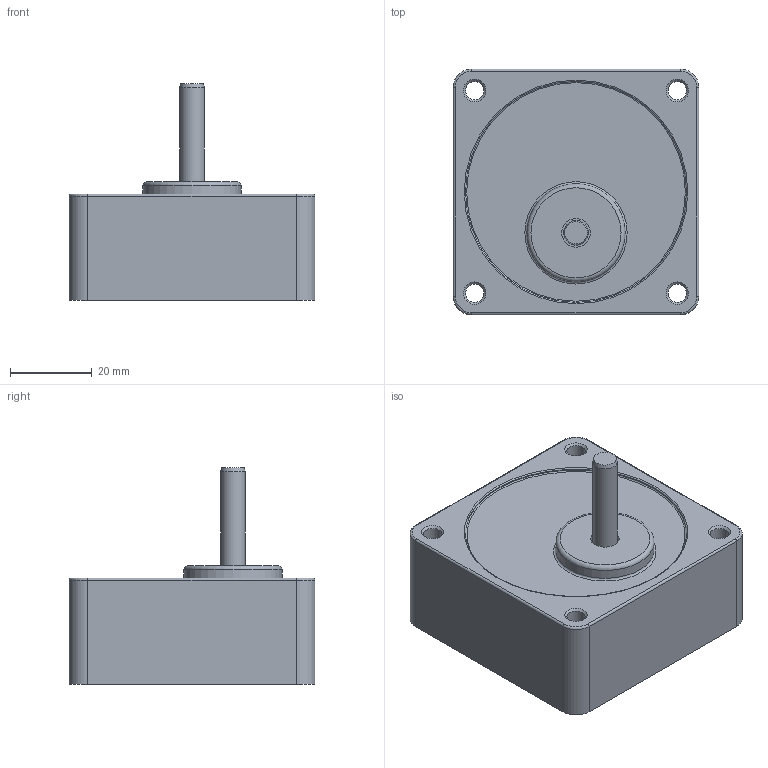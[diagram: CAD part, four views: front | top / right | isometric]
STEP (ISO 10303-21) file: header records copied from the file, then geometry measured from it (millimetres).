
FILE_DESCRIPTION((''),'2;1');
FILE_NAME('D:\STP파일\GEAR HEAD\3W\S6ST3~18.stp','2013-05-20T19:03:36',('leebh'),(''),'Autodesk Inventor 2011','Autodesk Inventor 2011','');
FILE_SCHEMA(('AUTOMOTIVE_DESIGN { 1 0 10303 214 1 1 1 1 }'));
Length unit declared in the file: millimetre
Products named in the file (1): S9I90G-T1
Bounding box: 60 x 60 x 53 mm (x, y, z)
Volume: 80855 mm3; surface area: 16456.8 mm2
Topology: 1 solids, 1 shells, 43 faces, 88 edges, 53 vertices
Faces by surface type: cylinder 18, plane 12, torus 8, cone 5
Full cylindrical faces by diameter (mm): 4.5 x4, 6 x2, 7 x1, 24 x1, 53.997 x1, 54 x1
Entity records: 1082 total; most frequent: DIRECTION 206, CARTESIAN_POINT 166, ORIENTED_EDGE 138, AXIS2_PLACEMENT_3D 93, EDGE_LOOP 76, EDGE_CURVE 69, VERTEX_POINT 53, CIRCLE 49
